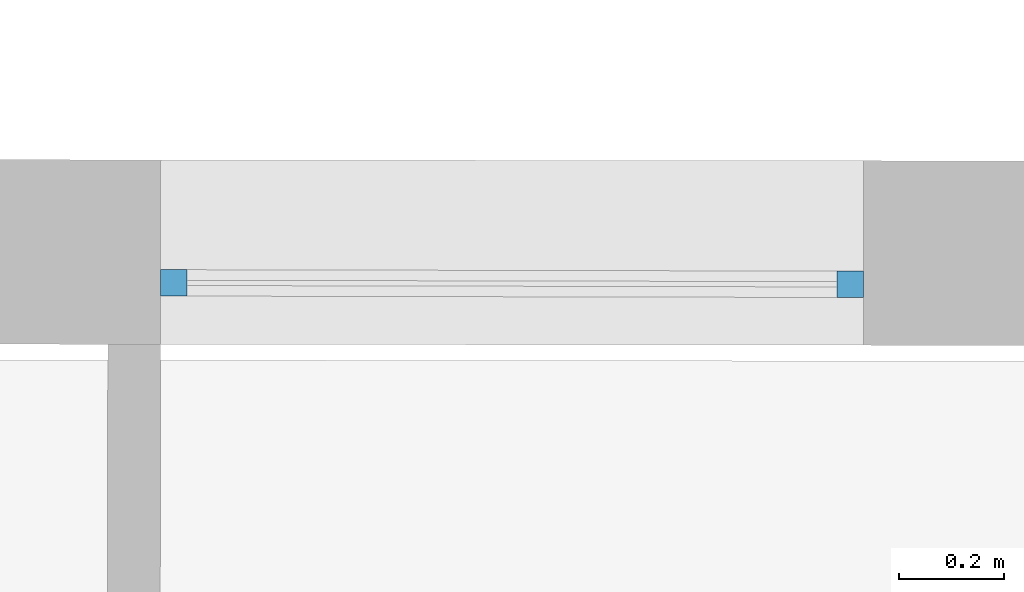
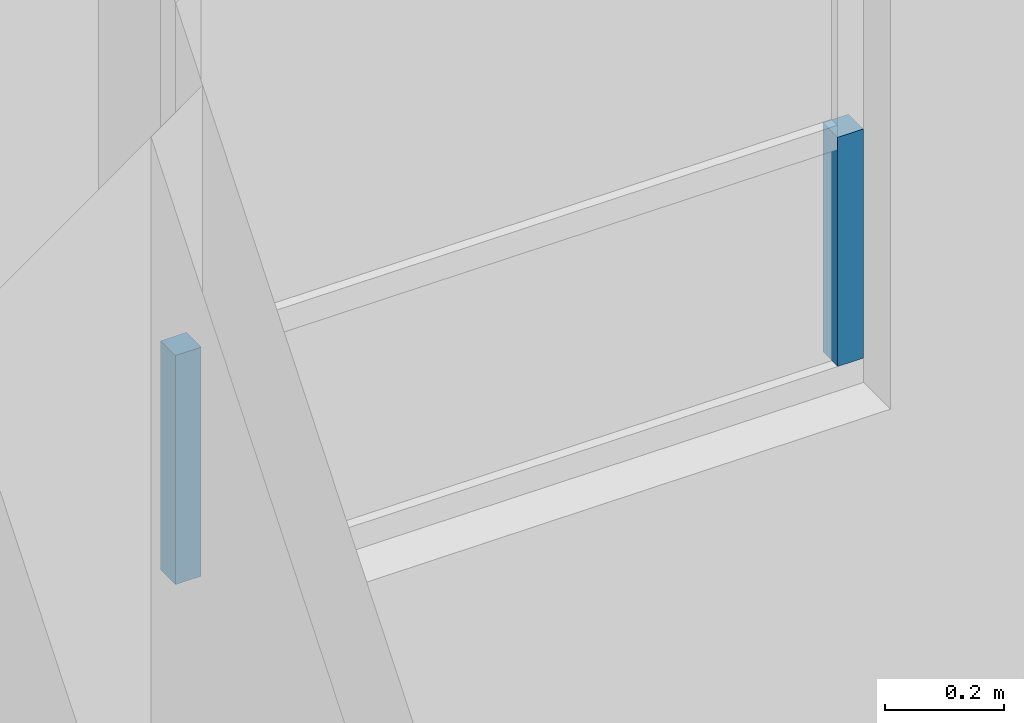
# One storey, part 33 of 101: 2 members, 1 element without a shape of its own.
"""IFC2X3 building model written with IfcOpenShell, lengths in metres."""

from ifc_helpers import new_model, entity, si_unit, converted_unit, derived_unit, direction, frame, origin, origin_2d_with_axis, place, context, subcontext, project, spatial, rectangle, extrude, source, transform, mapped, material, type_object, type_shapes, element, aggregate, save


model = new_model("IFC2X3")

# Units and contexts
model_context = context("Model", 3, precision=1e-05, world=origin(), true_north=direction((6.123233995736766e-17, 1.0)))
body_context = subcontext(model_context, "Body", "Model", "MODEL_VIEW")
ifc_project = project(units=[si_unit("LENGTHUNIT", "METRE"), si_unit("AREAUNIT", "SQUARE_METRE"), converted_unit("PLANEANGLEUNIT", "DEGREE", entity("IfcPlaneAngleMeasure", 0.017453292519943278), si_unit("PLANEANGLEUNIT", "RADIAN"), dimensions=[0, 0, 0, 0, 0, 0, 0]), derived_unit("THERMALTRANSMITTANCEUNIT", [(si_unit("MASSUNIT", "GRAM", prefix="KILO"), 1), (si_unit("THERMODYNAMICTEMPERATUREUNIT", "KELVIN"), -1), (si_unit("TIMEUNIT", "SECOND"), -3)])], contexts=[model_context])

# Site, building, storey
site_placement = place(None, frame((1253.6752467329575, 2072.143113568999, 91.49999999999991), z_axis=(0.0, 0.0, 1.0), x_axis=(0.7237211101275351, 0.6900925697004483, 0.0)))
site = spatial("IfcSite", under=ifc_project, at=site_placement, Name="Surface", CompositionType="ELEMENT")
building_placement = place(site_placement, origin())
building = spatial("IfcBuilding", under=site, at=building_placement, CompositionType="ELEMENT")
storey_placement = place(building_placement, origin())
storey = spatial("IfcBuildingStorey", under=building, at=storey_placement, Name="0- Rdc", CompositionType="ELEMENT", Elevation=-5.764692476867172e-13)

# Curtain wall, members
curtain_wall_type = type_object("IfcCurtainWallType", Name="Mur-rideau:Menuiserie Ext 1F+1OB VERTIC", PredefinedType="NOTDEFINED")
curtain_wall_placement = place(storey_placement, origin())
curtain_wall = element("IfcCurtainWall", 1, at=curtain_wall_placement, inside=storey, type_object=curtain_wall_type, Name="Mur-rideau:Menuiserie Ext 1F+1OB VERTIC", ObjectType="Mur-rideau:Menuiserie Ext 1F+1OB VERTIC")
ifc_material = material(Name="OMD_Aluminium Men Ext")
member_type_1 = type_object("IfcMemberType", Name="Meneau rectangulaire:50x50", PredefinedType="MULLION", material=ifc_material)
shared_shape_1 = source(origin(), body_context, "Body", "SweptSolid", [
    extrude(rectangle(XDim=0.05, YDim=0.049999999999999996, at=origin_2d_with_axis()), frame((-0.025, 0.0, -0.4699999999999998), z_axis=(0.0, 0.0, 1.0), x_axis=(-1.0, 0.0, 0.0)), (0.0, 0.0, 1.0), 0.4699999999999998),
])
type_shapes(member_type_1, [shared_shape_1])
member_1_placement = place(curtain_wall_placement, frame((196.0511874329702, -1.0939281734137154, 0.6699999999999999), z_axis=(0.0, 0.0, -1.0), x_axis=(-0.722229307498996, 0.6916536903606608, 0.0)))
member_1 = element("IfcMember", 2, at=member_1_placement, type_object=member_type_1, material=ifc_material, Name="Meneau rectangulaire:50x50", ObjectType="Meneau rectangulaire:50x50", context=body_context, shape_type="MappedRepresentation", body=[
    mapped(shared_shape_1, transform((0.0, 0.0, 0.0), scale=1.0)),
])
member_type_2 = type_object("IfcMemberType", Name="Meneau rectangulaire:50x50", PredefinedType="MULLION", material=ifc_material)
shared_shape_2 = source(origin(), body_context, "Body", "SweptSolid", [
    extrude(rectangle(XDim=0.05, YDim=0.05000000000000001, at=origin_2d_with_axis()), frame((-0.025, 0.0, -0.4699999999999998), z_axis=(0.0, 0.0, 1.0), x_axis=(-1.0, 0.0, 0.0)), (0.0, 0.0, 1.0), 0.4699999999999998),
])
type_shapes(member_type_2, [shared_shape_2])
member_2_placement = place(curtain_wall_placement, frame((197.01401796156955, -2.0159972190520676, 1.14), z_axis=(0.0, 0.0, 1.0), x_axis=(0.722229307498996, -0.6916536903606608, 0.0)))
member_2 = element("IfcMember", 3, at=member_2_placement, type_object=member_type_2, material=ifc_material, Name="Meneau rectangulaire:50x50", ObjectType="Meneau rectangulaire:50x50", context=body_context, shape_type="MappedRepresentation", body=[
    mapped(shared_shape_2, transform((0.0, 0.0, 0.0), scale=1.0)),
])
aggregate(curtain_wall, [member_1, member_2])

save(model, "model.ifc")
